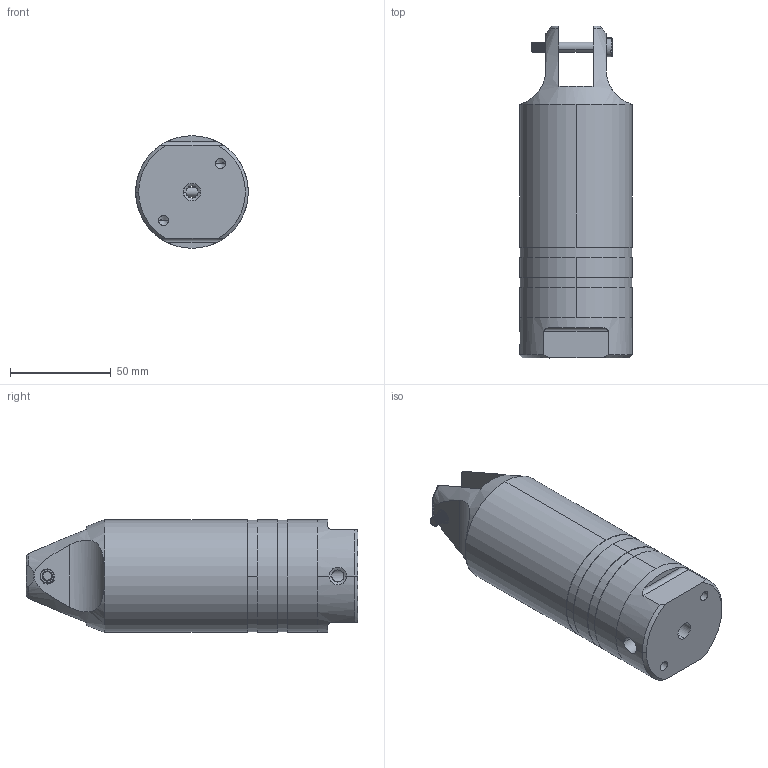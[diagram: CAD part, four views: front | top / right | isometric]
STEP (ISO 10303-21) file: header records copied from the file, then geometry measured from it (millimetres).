
FILE_DESCRIPTION (( 'STEP AP214' ), '1' );
FILE_NAME ('NGT-NR30P.STEP', '2019-11-13T07:13:58', ( '微软用户' ), ( '微软中国' ), 'SwSTEP 2.0', 'SolidWorks 2016', '' );
FILE_SCHEMA (( 'AUTOMOTIVE_DESIGN' ));
Length unit declared in the file: millimetre
Products named in the file (1): NGT-NR30P
Bounding box: 56 x 165 x 56 mm (x, y, z)
Volume: 146253.2 mm3; surface area: 61978 mm2
Topology: 5 solids, 5 shells, 308 faces, 827 edges, 536 vertices
Faces by surface type: cylinder 174, plane 66, bspline 38, cone 30
Entity records: 22152 total; most frequent: CARTESIAN_POINT 11887, ORIENTED_EDGE 1646, DIRECTION 1185, EDGE_CURVE 823, VERTEX_POINT 536, AXIS2_PLACEMENT_3D 449, EDGE_LOOP 333, UNCERTAINTY_MEASURE_WITH_UNIT 315
